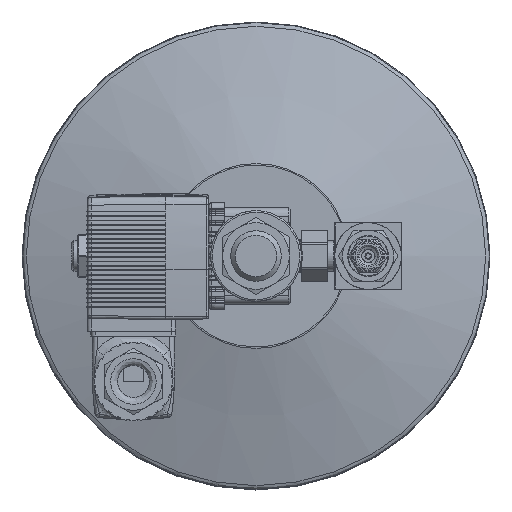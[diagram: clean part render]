
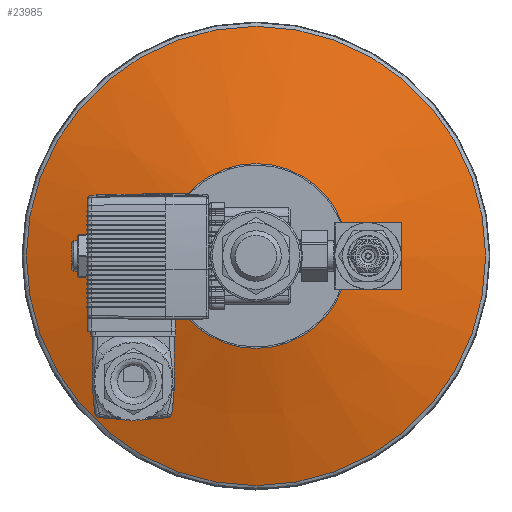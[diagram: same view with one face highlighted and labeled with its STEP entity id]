
A CAD part, left-side view. The second image highlights one B-rep face of the part: STEP entity #23985.
In plain terms, the highlighted conical face has half-angle 73.997 degrees and reference radius 75.769 mm.
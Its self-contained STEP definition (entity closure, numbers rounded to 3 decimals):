
#996 = CARTESIAN_POINT ( 'NONE',  ( 73.466, -30.469, 0. ) ) ;
#1749 = DIRECTION ( 'NONE',  ( 0., 0., -1. ) ) ;
#10820 = CARTESIAN_POINT ( 'NONE',  ( 86.458, 0., 0. ) ) ;
#21691 = DIRECTION ( 'NONE',  ( 1., 0., 0. ) ) ;
#23985 = ADVANCED_FACE ( 'NONE', ( #62836, #88045 ), #47436, .T. ) ;
#24813 = VERTEX_POINT ( 'NONE', #996 ) ;
#25673 = EDGE_LOOP ( 'NONE', ( #159991 ) ) ;
#44768 = VERTEX_POINT ( 'NONE', #67334 ) ;
#47320 = CARTESIAN_POINT ( 'NONE',  ( 73.466, 0., 0. ) ) ;
#47436 = CONICAL_SURFACE ( 'NONE', #208809, 75.769, 1.291 ) ;
#57402 = EDGE_LOOP ( 'NONE', ( #260193 ) ) ;
#62836 = FACE_OUTER_BOUND ( 'NONE', #57402, .T. ) ;
#67334 = CARTESIAN_POINT ( 'NONE',  ( 86.458, -75.769, 0. ) ) ;
#79777 = DIRECTION ( 'NONE',  ( -1., 0., 0. ) ) ;
#88045 = FACE_BOUND ( 'NONE', #25673, .T. ) ;
#101039 = DIRECTION ( 'NONE',  ( 0., -1., 0. ) ) ;
#120944 = AXIS2_PLACEMENT_3D ( 'NONE', #47320, #132371, #232126 ) ;
#132371 = DIRECTION ( 'NONE',  ( 1., 0., 0. ) ) ;
#159991 = ORIENTED_EDGE ( 'NONE', *, *, #251622, .T. ) ;
#189116 = CARTESIAN_POINT ( 'NONE',  ( 86.458, 0., 0. ) ) ;
#208809 = AXIS2_PLACEMENT_3D ( 'NONE', #189116, #21691, #1749 ) ;
#230849 = CIRCLE ( 'NONE', #256454, 75.769 ) ;
#231433 = CIRCLE ( 'NONE', #120944, 30.469 ) ;
#232126 = DIRECTION ( 'NONE',  ( 0., -1., 0. ) ) ;
#248812 = EDGE_CURVE ( 'NONE', #44768, #44768, #230849, .T. ) ;
#251622 = EDGE_CURVE ( 'NONE', #24813, #24813, #231433, .T. ) ;
#256454 = AXIS2_PLACEMENT_3D ( 'NONE', #10820, #79777, #101039 ) ;
#260193 = ORIENTED_EDGE ( 'NONE', *, *, #248812, .T. ) ;
